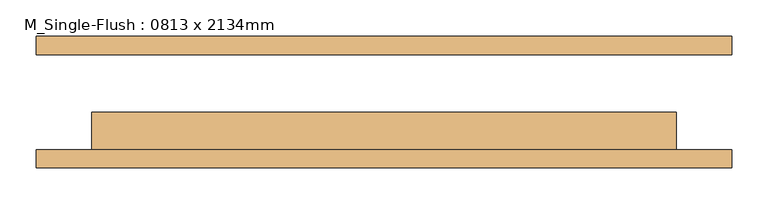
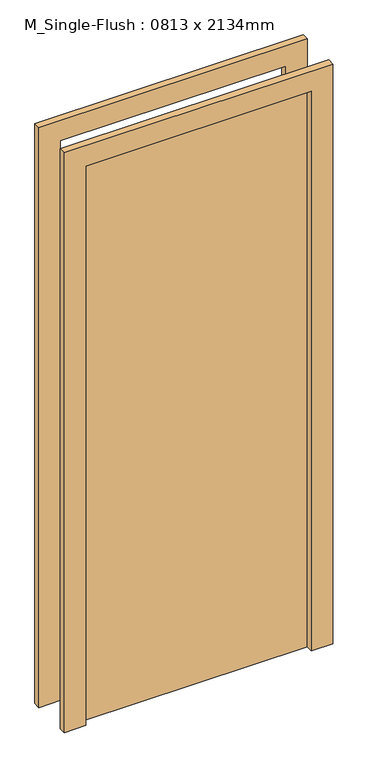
"""IFC4 building model written with IfcOpenShell, lengths in millimetres: door geometry, M_Single-Flush : 0813 x 2134mm."""

from ifc_helpers import new_model, si_unit, frame, origin, origin_with_axes, place, context, project, spatial, polyline, outline, extrude, source, transform, mapped, element, save


def m_single_flush_0813_x_2134mm_af9e47f0(model_context):
    return source(origin(), model_context, "Body", "SweptSolid", [
        extrude(outline(polyline([(2176.0, -476.05), (0.0, -476.05), (0.0, -400.05), (2100.0, -400.05), (2100.0, 400.05), (0.0, 400.05), (0.0, 476.05), (2176.0, 476.05), (2176.0, -476.05)])), frame((0.0, -90.0, 0.0), z_axis=(0.0, 1.0, 0.0), x_axis=(0.0, 0.0, 1.0)), (0.0, 0.0, 1.0), 25.0),
        extrude(outline(polyline([(2176.0, 476.05), (2176.0, -476.05), (0.0, -476.05), (0.0, -400.05), (2100.0, -400.05), (2100.0, 400.05), (0.0, 400.05), (0.0, 476.05), (2176.0, 476.05)])), frame((0.0, 65.0, 0.0), z_axis=(0.0, 1.0, 0.0), x_axis=(0.0, 0.0, 1.0)), (0.0, 0.0, 1.0), 25.0),
        extrude(outline(polyline([(400.05, -14.0), (400.05, -65.0), (-400.05, -65.0), (-400.05, -14.0), (400.05, -14.0)])), origin_with_axes(), (0.0, 0.0, 1.0), 2100.0),
    ])


if __name__ == "__main__":
    model = new_model("IFC4")
    model_context = context("Model", 3, world=origin())
    ifc_project = project(units=[si_unit("LENGTHUNIT", "METRE", prefix="MILLI")], contexts=[model_context])
    site = spatial("IfcSite", under=ifc_project)
    building = spatial("IfcBuilding", under=site)
    placement = place(None, origin())
    m_single_flush_0813_x_2134mm_shape = m_single_flush_0813_x_2134mm_af9e47f0(model_context)
    element("IfcDoor", 1, ObjectType="M_Single-Flush : 0813 x 2134mm", at=placement, inside=building, context=model_context, shape_type="MappedRepresentation", body=[
        mapped(m_single_flush_0813_x_2134mm_shape, transform((0.0, 0.0, 0.0), x_axis=(1.0, 0.0, 0.0), y_axis=(0.0, 1.0, 0.0), z_axis=(0.0, 0.0, 1.0))),
    ])
    save(model, "model.ifc")
